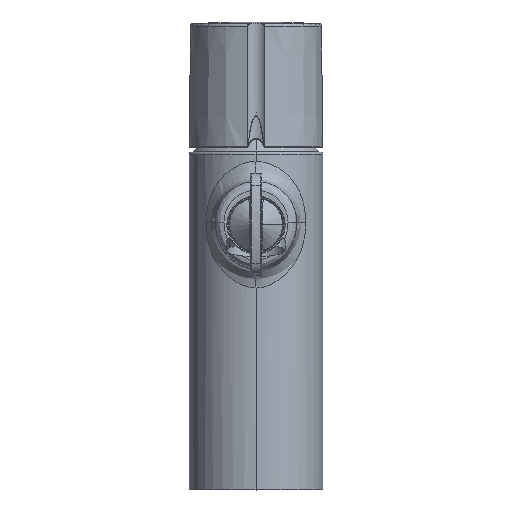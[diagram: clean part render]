
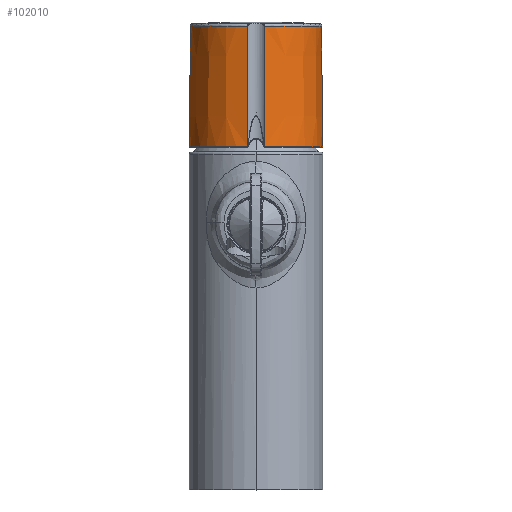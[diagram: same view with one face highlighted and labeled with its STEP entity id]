
A CAD part, top view. The second image highlights one B-rep face of the part: STEP entity #102010.
In plain terms, the highlighted conical face has half-angle 0.5 degrees and reference radius 22.818 mm.
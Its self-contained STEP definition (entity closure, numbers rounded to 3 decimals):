
#93986=CARTESIAN_POINT('',(0.,41.536,0.));
#93987=DIRECTION('',(0.,-1.,0.));
#93988=DIRECTION('',(-0.129,0.,0.992));
#93989=AXIS2_PLACEMENT_3D('',#93986,#93987,#93988);
#94001=CARTESIAN_POINT('',(2.924,41.536,22.448));
#96610=CARTESIAN_POINT('',(0.,0.202,0.));
#96611=DIRECTION('',(0.,1.,0.));
#96612=DIRECTION('',(0.127,0.,0.992));
#96613=AXIS2_PLACEMENT_3D('',#96610,#96611,#96612);
#96615=CARTESIAN_POINT('',(2.924,41.536,22.448));
#96616=CARTESIAN_POINT('',(2.924,38.101,22.478));
#96617=CARTESIAN_POINT('',(2.925,31.292,22.538));
#96618=CARTESIAN_POINT('',(2.925,21.538,22.624));
#96619=CARTESIAN_POINT('',(2.926,11.411,22.713));
#96620=CARTESIAN_POINT('',(2.926,4.023,22.778));
#96621=CARTESIAN_POINT('',(2.926,0.202,
22.811));
#96623=CARTESIAN_POINT('',(-2.926,0.202,
22.811));
#96624=CARTESIAN_POINT('',(-2.926,3.324,
22.784));
#96625=CARTESIAN_POINT('',(-2.926,9.706,
22.728));
#96626=CARTESIAN_POINT('',(-2.925,19.592,
22.641));
#96627=CARTESIAN_POINT('',(-2.925,30.079,
22.549));
#96628=CARTESIAN_POINT('',(-2.925,37.632,
22.482));
#96629=CARTESIAN_POINT('',(-2.924,41.536,
22.448));
#96772=CARTESIAN_POINT('',(2.926,0.202,
22.811));
#96773=CARTESIAN_POINT('',(-2.926,0.202,
22.811));
#96774=VERTEX_POINT('',#96772);
#96775=VERTEX_POINT('',#96773);
#97086=VERTEX_POINT('',#96629);
#97095=VERTEX_POINT('',#94001);
#101998=CARTESIAN_POINT('',(0.,20.869,0.));
#101999=DIRECTION('',(0.,-1.,0.));
#102000=DIRECTION('',(-1.,0.,0.));
#102001=AXIS2_PLACEMENT_3D('',#101998,#101999,#102000);
#102002=CONICAL_SURFACE('',#102001,22.818,0.5);
#102003=ORIENTED_EDGE('',*,*,#101989,.F.);
#102004=ORIENTED_EDGE('',*,*,#98114,.F.);
#102005=ORIENTED_EDGE('',*,*,#97869,.F.);
#102007=ORIENTED_EDGE('',*,*,#102006,.F.);
#102008=EDGE_LOOP('',(#102003,#102004,#102005,#102007));
#102009=FACE_OUTER_BOUND('',#102008,.F.);
#102010=ADVANCED_FACE('',(#102009),#102002,.T.);
#93990=CIRCLE('',#93989,22.638);
#96614=CIRCLE('',#96613,22.998);
#96622=B_SPLINE_CURVE_WITH_KNOTS('',3,(#96615,#96616,#96617,#96618,#96619,
#96620,#96621),.UNSPECIFIED.,.F.,.F.,(4,1,1,1,4),(0.,0.25,0.5,0.75,
1.),.UNSPECIFIED.);
#96630=B_SPLINE_CURVE_WITH_KNOTS('',3,(#96623,#96624,#96625,#96626,#96627,
#96628,#96629),.UNSPECIFIED.,.F.,.F.,(4,1,1,1,4),(0.,0.25,0.5,0.75,
1.),.UNSPECIFIED.);
#97869=EDGE_CURVE('',#97086,#97095,#93990,.T.);
#98114=EDGE_CURVE('',#97095,#96774,#96622,.T.);
#101989=EDGE_CURVE('',#96774,#96775,#96614,.T.);
#102006=EDGE_CURVE('',#96775,#97086,#96630,.T.);
